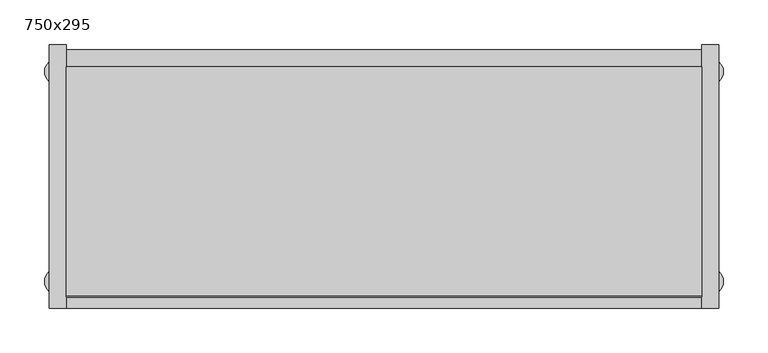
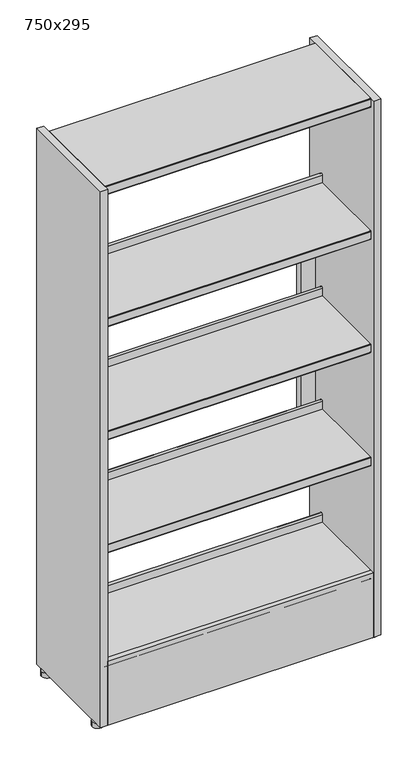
"""IFC4 building model written with IfcOpenShell, lengths in millimetres: furniture geometry, BK Library - Rondus ES - 1530 : 750x295."""

from ifc_helpers import new_model, si_unit, point, frame, frame_2d, origin, origin_with_axes, place, context, project, spatial, polyline, circle_curve, trimmed, segment, composite_curve, outline, extrude, source, transform, mapped, element, save


def furniture_750x295_e54d80aa(model_context):
    return source(origin(), model_context, "Body", "SweptSolid", [
        extrude(outline(composite_curve([segment(trimmed(circle_curve(frame_2d((365.5005427, 117.4952633)), 14.4994573), [point((380.0, 117.4952633))], [point((351.0010853, 117.4952633))], False, "CARTESIAN"), True, "CONTINUOUS"), segment(trimmed(circle_curve(frame_2d((365.5005427, 117.4952633)), 14.4994573), [point((351.0010853, 117.4952633))], [point((380.0, 117.4952633))], False, "CARTESIAN"), True, "CONTINUOUS")], self_intersect=False)), origin_with_axes(), (0.0, 0.0, 1.0), 13.6999998),
        extrude(outline(composite_curve([segment(trimmed(circle_curve(frame_2d((-365.5005427, 117.4952633)), 14.4994573), [point((-380.0, 117.4952633))], [point((-351.0010853, 117.4952633))], False, "CARTESIAN"), True, "CONTINUOUS"), segment(trimmed(circle_curve(frame_2d((-365.5005427, 117.4952633)), 14.4994573), [point((-351.0010853, 117.4952633))], [point((-380.0, 117.4952633))], False, "CARTESIAN"), True, "CONTINUOUS")], self_intersect=False)), origin_with_axes(), (0.0, 0.0, 1.0), 13.6999998),
        extrude(outline(composite_curve([segment(trimmed(circle_curve(frame_2d((365.5005427, -117.4952633)), 14.4994573), [point((380.0, -117.4952633))], [point((351.0010853, -117.4952633))], False, "CARTESIAN"), True, "CONTINUOUS"), segment(trimmed(circle_curve(frame_2d((365.5005427, -117.4952633)), 14.4994573), [point((351.0010853, -117.4952633))], [point((380.0, -117.4952633))], False, "CARTESIAN"), True, "CONTINUOUS")], self_intersect=False)), origin_with_axes(), (0.0, 0.0, 1.0), 13.6999998),
        extrude(outline(composite_curve([segment(trimmed(circle_curve(frame_2d((-365.5005427, -117.4952633)), 14.4994573), [point((-380.0, -117.4952633))], [point((-351.0010853, -117.4952633))], False, "CARTESIAN"), True, "CONTINUOUS"), segment(trimmed(circle_curve(frame_2d((-365.5005427, -117.4952633)), 14.4994573), [point((-351.0010853, -117.4952633))], [point((-380.0, -117.4952633))], False, "CARTESIAN"), True, "CONTINUOUS")], self_intersect=False)), origin_with_axes(), (0.0, 0.0, 1.0), 13.6999998),
        extrude(outline(polyline([(1106.1999512, -356.0), (391.1999512, -356.0), (391.1999512, 356.0), (1106.1999512, 356.0), (1106.1999512, -356.0)]), holes=[polyline([(1066.1999514, -317.5), (1066.1999514, 317.5), (431.1999514, 317.5), (431.1999514, -317.5), (1066.1999514, -317.5)])]), frame((0.0, 123.0, 0.0), z_axis=(0.0, 1.0, 0.0), x_axis=(0.0, 0.0, 1.0)), (0.0, 0.0, 1.0), 19.0),
        extrude(outline(polyline([(356.0, -135.2476624), (356.0, -147.5), (-356.0, -147.5), (-356.0, -135.2476624), (356.0, -135.2476624)])), frame((0.0, 0.0, 13.6999998), z_axis=(0.0, 0.0, 1.0), x_axis=(1.0, 0.0, 0.0)), (0.0, 0.0, 1.0), 181.4999514),
        extrude(outline(composite_curve([segment(polyline([(123.0, 1530.0), (123.0, 1528.0), (-133.75, 1528.0), (-133.75, 1506.5), (-121.75, 1506.5), (-121.75, 1505.0), (-133.75, 1505.0)]), True, "CONTINUOUS"), segment(trimmed(circle_curve(frame_2d((-133.75, 1506.5)), 1.5), [point((-133.75, 1505.0))], [point((-135.25, 1506.5))], False, "CARTESIAN"), True, "CONTINUOUS"), segment(polyline([(-135.25, 1506.5), (-135.25, 1528.5)]), True, "CONTINUOUS"), segment(trimmed(circle_curve(frame_2d((-133.75, 1528.5)), 1.5), [point((-135.25, 1528.5))], [point((-133.75, 1530.0))], False, "CARTESIAN"), True, "CONTINUOUS"), segment(polyline([(-133.75, 1530.0), (123.0, 1530.0)]), True, "CONTINUOUS")], self_intersect=False)), frame((-356.0, 0.0, 0.0), z_axis=(1.0, 0.0, 0.0), x_axis=(0.0, 1.0, 0.0)), (0.0, 0.0, 1.0), 712.0),
        extrude(outline(composite_curve([segment(polyline([(89.75, 1155.1999512), (89.75, 1176.7196336)]), True, "CONTINUOUS"), segment(trimmed(circle_curve(frame_2d((93.25, 1176.7196336)), 3.5), [point((89.75, 1176.7196336))], [point((96.75, 1176.7196336))], False, "CARTESIAN"), True, "CONTINUOUS"), segment(polyline([(96.75, 1176.7196336), (96.75, 1168.1999512), (95.25, 1168.1999512), (95.25, 1176.7020126)]), True, "CONTINUOUS"), segment(trimmed(circle_curve(frame_2d((93.25, 1176.7020126)), 2.0), [point((95.25, 1176.7020126))], [point((91.25, 1176.7020126))], True, "CARTESIAN"), True, "CONTINUOUS"), segment(polyline([(91.25, 1176.7020126), (91.25, 1155.1547733)]), True, "CONTINUOUS"), segment(trimmed(circle_curve(frame_2d((89.7951779, 1155.1547733)), 1.4548221), [point((91.25, 1155.1547733))], [point((89.7951779, 1153.6999512))], False, "CARTESIAN"), True, "CONTINUOUS"), segment(polyline([(89.7951779, 1153.6999512), (-133.75, 1153.6999512), (-133.75, 1132.1999512), (-121.75, 1132.1999512), (-121.75, 1130.6999512), (-133.75, 1130.6999512)]), True, "CONTINUOUS"), segment(trimmed(circle_curve(frame_2d((-133.75, 1132.1999512)), 1.5), [point((-133.75, 1130.6999512))], [point((-135.25, 1132.1999512))], False, "CARTESIAN"), True, "CONTINUOUS"), segment(polyline([(-135.25, 1132.1999512), (-135.25, 1153.6999512)]), True, "CONTINUOUS"), segment(trimmed(circle_curve(frame_2d((-133.75, 1153.6999512)), 1.5), [point((-135.25, 1153.6999512))], [point((-133.75, 1155.1999512))], False, "CARTESIAN"), True, "CONTINUOUS"), segment(polyline([(-133.75, 1155.1999512), (89.75, 1155.1999512)]), True, "CONTINUOUS")], self_intersect=False)), frame((-356.0, 0.0, 0.0), z_axis=(1.0, 0.0, 0.0), x_axis=(0.0, 1.0, 0.0)), (0.0, 0.0, 1.0), 712.0),
        extrude(outline(composite_curve([segment(polyline([(89.75, 835.1999512), (89.75, 856.7196336)]), True, "CONTINUOUS"), segment(trimmed(circle_curve(frame_2d((93.25, 856.7196336)), 3.5), [point((89.75, 856.7196336))], [point((96.75, 856.7196336))], False, "CARTESIAN"), True, "CONTINUOUS"), segment(polyline([(96.75, 856.7196336), (96.75, 848.1999512), (95.25, 848.1999512), (95.25, 856.7020126)]), True, "CONTINUOUS"), segment(trimmed(circle_curve(frame_2d((93.25, 856.7020126)), 2.0), [point((95.25, 856.7020126))], [point((91.25, 856.7020126))], True, "CARTESIAN"), True, "CONTINUOUS"), segment(polyline([(91.25, 856.7020126), (91.25, 835.1547733)]), True, "CONTINUOUS"), segment(trimmed(circle_curve(frame_2d((89.7951779, 835.1547733)), 1.4548221), [point((91.25, 835.1547733))], [point((89.7951779, 833.6999512))], False, "CARTESIAN"), True, "CONTINUOUS"), segment(polyline([(89.7951779, 833.6999512), (-133.75, 833.6999512), (-133.75, 812.1999512), (-121.75, 812.1999512), (-121.75, 810.6999512), (-133.75, 810.6999512)]), True, "CONTINUOUS"), segment(trimmed(circle_curve(frame_2d((-133.75, 812.1999512)), 1.5), [point((-133.75, 810.6999512))], [point((-135.25, 812.1999512))], False, "CARTESIAN"), True, "CONTINUOUS"), segment(polyline([(-135.25, 812.1999512), (-135.25, 833.6999512)]), True, "CONTINUOUS"), segment(trimmed(circle_curve(frame_2d((-133.75, 833.6999512)), 1.5), [point((-135.25, 833.6999512))], [point((-133.75, 835.1999512))], False, "CARTESIAN"), True, "CONTINUOUS"), segment(polyline([(-133.75, 835.1999512), (89.75, 835.1999512)]), True, "CONTINUOUS")], self_intersect=False)), frame((-356.0, 0.0, 0.0), z_axis=(1.0, 0.0, 0.0), x_axis=(0.0, 1.0, 0.0)), (0.0, 0.0, 1.0), 712.0),
        extrude(outline(composite_curve([segment(polyline([(89.75, 515.1999512), (89.75, 536.7196336)]), True, "CONTINUOUS"), segment(trimmed(circle_curve(frame_2d((93.25, 536.7196336)), 3.5), [point((89.75, 536.7196336))], [point((96.75, 536.7196336))], False, "CARTESIAN"), True, "CONTINUOUS"), segment(polyline([(96.75, 536.7196336), (96.75, 528.1999512), (95.25, 528.1999512), (95.25, 536.7020126)]), True, "CONTINUOUS"), segment(trimmed(circle_curve(frame_2d((93.25, 536.7020126)), 2.0), [point((95.25, 536.7020126))], [point((91.25, 536.7020126))], True, "CARTESIAN"), True, "CONTINUOUS"), segment(polyline([(91.25, 536.7020126), (91.25, 515.1547733)]), True, "CONTINUOUS"), segment(trimmed(circle_curve(frame_2d((89.7951779, 515.1547733)), 1.4548221), [point((91.25, 515.1547733))], [point((89.7951779, 513.6999512))], False, "CARTESIAN"), True, "CONTINUOUS"), segment(polyline([(89.7951779, 513.6999512), (-133.75, 513.6999512), (-133.75, 492.1999512), (-121.75, 492.1999512), (-121.75, 490.6999512), (-133.75, 490.6999512)]), True, "CONTINUOUS"), segment(trimmed(circle_curve(frame_2d((-133.75, 492.1999512)), 1.5), [point((-133.75, 490.6999512))], [point((-135.25, 492.1999512))], False, "CARTESIAN"), True, "CONTINUOUS"), segment(polyline([(-135.25, 492.1999512), (-135.25, 513.6999512)]), True, "CONTINUOUS"), segment(trimmed(circle_curve(frame_2d((-133.75, 513.6999512)), 1.5), [point((-135.25, 513.6999512))], [point((-133.75, 515.1999512))], False, "CARTESIAN"), True, "CONTINUOUS"), segment(polyline([(-133.75, 515.1999512), (89.75, 515.1999512)]), True, "CONTINUOUS")], self_intersect=False)), frame((-356.0, 0.0, 0.0), z_axis=(1.0, 0.0, 0.0), x_axis=(0.0, 1.0, 0.0)), (0.0, 0.0, 1.0), 712.0),
        extrude(outline(composite_curve([segment(polyline([(89.75, 195.1999512), (89.75, 216.7196336)]), True, "CONTINUOUS"), segment(trimmed(circle_curve(frame_2d((93.25, 216.7196336)), 3.5), [point((89.75, 216.7196336))], [point((96.75, 216.7196336))], False, "CARTESIAN"), True, "CONTINUOUS"), segment(polyline([(96.75, 216.7196336), (96.75, 208.1999512), (95.25, 208.1999512), (95.25, 216.7020126)]), True, "CONTINUOUS"), segment(trimmed(circle_curve(frame_2d((93.25, 216.7020126)), 2.0), [point((95.25, 216.7020126))], [point((91.25, 216.7020126))], True, "CARTESIAN"), True, "CONTINUOUS"), segment(polyline([(91.25, 216.7020126), (91.25, 195.1547733)]), True, "CONTINUOUS"), segment(trimmed(circle_curve(frame_2d((89.7951779, 195.1547733)), 1.4548221), [point((91.25, 195.1547733))], [point((89.7951779, 193.6999512))], False, "CARTESIAN"), True, "CONTINUOUS"), segment(polyline([(89.7951779, 193.6999512), (-133.75, 193.6999512), (-133.75, 172.1999512), (-121.75, 172.1999512), (-121.75, 170.6999512), (-133.75, 170.6999512)]), True, "CONTINUOUS"), segment(trimmed(circle_curve(frame_2d((-133.75, 172.1999512)), 1.5), [point((-133.75, 170.6999512))], [point((-135.25, 172.1999512))], False, "CARTESIAN"), True, "CONTINUOUS"), segment(polyline([(-135.25, 172.1999512), (-135.25, 193.6999512)]), True, "CONTINUOUS"), segment(trimmed(circle_curve(frame_2d((-133.75, 193.6999512)), 1.5), [point((-135.25, 193.6999512))], [point((-133.75, 195.1999512))], False, "CARTESIAN"), True, "CONTINUOUS"), segment(polyline([(-133.75, 195.1999512), (89.75, 195.1999512)]), True, "CONTINUOUS")], self_intersect=False)), frame((-356.0, 0.0, 0.0), z_axis=(1.0, 0.0, 0.0), x_axis=(0.0, 1.0, 0.0)), (0.0, 0.0, 1.0), 712.0),
        extrude(outline(polyline([(356.0, 147.5), (375.0, 147.5), (375.0, -147.5), (356.0, -147.5), (356.0, 147.5)])), frame((0.0, 0.0, 13.6999998), z_axis=(0.0, 0.0, 1.0), x_axis=(1.0, 0.0, 0.0)), (0.0, 0.0, 1.0), 1516.3000002),
        extrude(outline(polyline([(-356.0, 147.5), (-356.0, -147.5), (-375.0, -147.5), (-375.0, 147.5), (-356.0, 147.5)])), frame((0.0, 0.0, 13.6999998), z_axis=(0.0, 0.0, 1.0), x_axis=(1.0, 0.0, 0.0)), (0.0, 0.0, 1.0), 1516.3000002),
    ])


if __name__ == "__main__":
    model = new_model("IFC4")
    model_context = context("Model", 3, world=origin())
    ifc_project = project(units=[si_unit("LENGTHUNIT", "METRE", prefix="MILLI")], contexts=[model_context])
    site = spatial("IfcSite", under=ifc_project)
    building = spatial("IfcBuilding", under=site)
    placement = place(None, origin())
    furniture_750x295_shape = furniture_750x295_e54d80aa(model_context)
    element("IfcFurniture", 1, ObjectType="BK Library - Rondus ES - 1530 : 750x295", at=placement, inside=building, context=model_context, shape_type="MappedRepresentation", body=[
        mapped(furniture_750x295_shape, transform((0.0, 0.0, 0.0), x_axis=(1.0, 0.0, 0.0), y_axis=(0.0, 1.0, 0.0), z_axis=(0.0, 0.0, 1.0))),
    ])
    save(model, "model.ifc")
